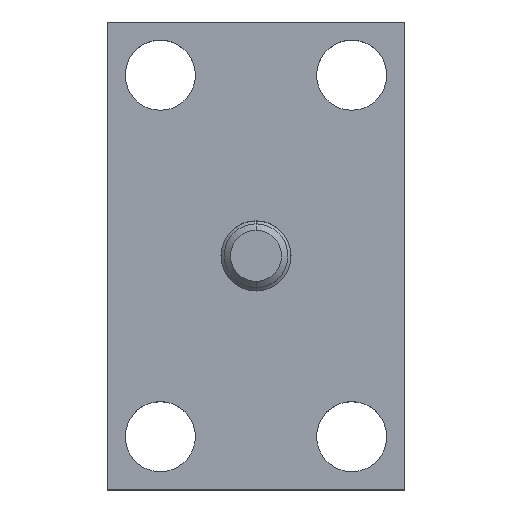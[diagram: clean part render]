
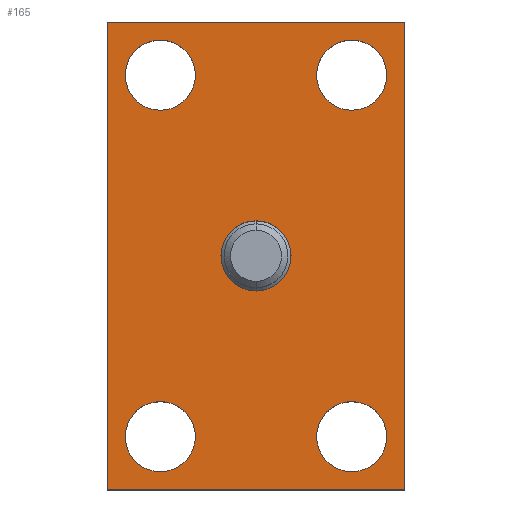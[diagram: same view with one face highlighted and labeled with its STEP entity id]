
A CAD part, top view. The second image highlights one B-rep face of the part: STEP entity #165.
In plain terms, the highlighted planar face has unit normal (0, 0, 1).
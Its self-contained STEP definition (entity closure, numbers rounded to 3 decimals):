
#117=CIRCLE('',#668,3.3);
#118=CIRCLE('',#669,3.3);
#119=CIRCLE('',#670,3.3);
#120=CIRCLE('',#671,3.3);
#121=CIRCLE('',#672,3.3);
#122=CIRCLE('',#673,3.3);
#123=CIRCLE('',#674,3.3);
#124=CIRCLE('',#675,3.3);
#125=CIRCLE('',#676,3.3);
#126=CIRCLE('',#677,3.3);
#147=FACE_BOUND('',#243,.T.);
#148=FACE_BOUND('',#244,.T.);
#149=FACE_BOUND('',#245,.T.);
#150=FACE_BOUND('',#246,.T.);
#151=FACE_BOUND('',#247,.T.);
#152=FACE_BOUND('',#248,.T.);
#165=ADVANCED_FACE('',(#147,#148,#149,#150,#151,#152),#198,.T.);
#198=PLANE('',#678);
#243=EDGE_LOOP('',(#299,#300,#301,#302));
#244=EDGE_LOOP('',(#303,#304));
#245=EDGE_LOOP('',(#305,#306));
#246=EDGE_LOOP('',(#307,#308));
#247=EDGE_LOOP('',(#309,#310));
#248=EDGE_LOOP('',(#311,#312));
#299=ORIENTED_EDGE('',*,*,#490,.T.);
#300=ORIENTED_EDGE('',*,*,#494,.T.);
#301=ORIENTED_EDGE('',*,*,#497,.T.);
#302=ORIENTED_EDGE('',*,*,#500,.T.);
#303=ORIENTED_EDGE('',*,*,#501,.T.);
#304=ORIENTED_EDGE('',*,*,#502,.T.);
#305=ORIENTED_EDGE('',*,*,#503,.T.);
#306=ORIENTED_EDGE('',*,*,#504,.T.);
#307=ORIENTED_EDGE('',*,*,#505,.T.);
#308=ORIENTED_EDGE('',*,*,#506,.T.);
#309=ORIENTED_EDGE('',*,*,#507,.T.);
#310=ORIENTED_EDGE('',*,*,#508,.T.);
#311=ORIENTED_EDGE('',*,*,#509,.T.);
#312=ORIENTED_EDGE('',*,*,#510,.T.);
#440=VERTEX_POINT('',#906);
#441=VERTEX_POINT('',#908);
#444=VERTEX_POINT('',#915);
#446=VERTEX_POINT('',#921);
#447=VERTEX_POINT('',#929);
#448=VERTEX_POINT('',#930);
#449=VERTEX_POINT('',#933);
#450=VERTEX_POINT('',#934);
#451=VERTEX_POINT('',#937);
#452=VERTEX_POINT('',#938);
#453=VERTEX_POINT('',#941);
#454=VERTEX_POINT('',#942);
#455=VERTEX_POINT('',#945);
#456=VERTEX_POINT('',#946);
#490=EDGE_CURVE('',#441,#440,#568,.T.);
#494=EDGE_CURVE('',#440,#444,#572,.T.);
#497=EDGE_CURVE('',#444,#446,#575,.T.);
#500=EDGE_CURVE('',#446,#441,#578,.T.);
#501=EDGE_CURVE('',#447,#448,#117,.T.);
#502=EDGE_CURVE('',#448,#447,#118,.T.);
#503=EDGE_CURVE('',#449,#450,#119,.T.);
#504=EDGE_CURVE('',#450,#449,#120,.T.);
#505=EDGE_CURVE('',#451,#452,#121,.T.);
#506=EDGE_CURVE('',#452,#451,#122,.T.);
#507=EDGE_CURVE('',#453,#454,#123,.T.);
#508=EDGE_CURVE('',#454,#453,#124,.T.);
#509=EDGE_CURVE('',#455,#456,#125,.T.);
#510=EDGE_CURVE('',#456,#455,#126,.T.);
#568=LINE('',#907,#616);
#572=LINE('',#916,#620);
#575=LINE('',#922,#623);
#578=LINE('',#926,#626);
#616=VECTOR('',#730,1.);
#620=VECTOR('',#736,1.);
#623=VECTOR('',#741,1.);
#626=VECTOR('',#746,1.);
#668=AXIS2_PLACEMENT_3D('',#928,#749,#750);
#669=AXIS2_PLACEMENT_3D('',#931,#751,#752);
#670=AXIS2_PLACEMENT_3D('',#932,#753,#754);
#671=AXIS2_PLACEMENT_3D('',#935,#755,#756);
#672=AXIS2_PLACEMENT_3D('',#936,#757,#758);
#673=AXIS2_PLACEMENT_3D('',#939,#759,#760);
#674=AXIS2_PLACEMENT_3D('',#940,#761,#762);
#675=AXIS2_PLACEMENT_3D('',#943,#763,#764);
#676=AXIS2_PLACEMENT_3D('',#944,#765,#766);
#677=AXIS2_PLACEMENT_3D('',#947,#767,#768);
#678=AXIS2_PLACEMENT_3D('',#948,#769,#770);
#730=DIRECTION('',(0.,-1.,0.));
#736=DIRECTION('',(1.,0.,0.));
#741=DIRECTION('',(0.,1.,0.));
#746=DIRECTION('',(-1.,0.,0.));
#749=DIRECTION('',(0.,0.,-1.));
#750=DIRECTION('',(-1.,0.,0.));
#751=DIRECTION('',(0.,0.,-1.));
#752=DIRECTION('',(1.,0.,0.));
#753=DIRECTION('',(0.,0.,-1.));
#754=DIRECTION('',(-1.,0.,0.));
#755=DIRECTION('',(0.,0.,-1.));
#756=DIRECTION('',(1.,0.,0.));
#757=DIRECTION('',(0.,0.,-1.));
#758=DIRECTION('',(-1.,0.,0.));
#759=DIRECTION('',(0.,0.,-1.));
#760=DIRECTION('',(1.,0.,0.));
#761=DIRECTION('',(0.,0.,-1.));
#762=DIRECTION('',(-1.,0.,0.));
#763=DIRECTION('',(0.,0.,-1.));
#764=DIRECTION('',(1.,0.,0.));
#765=DIRECTION('',(0.,0.,-1.));
#766=DIRECTION('',(-1.,0.,0.));
#767=DIRECTION('',(0.,0.,-1.));
#768=DIRECTION('',(1.,0.,0.));
#769=DIRECTION('',(0.,0.,1.));
#770=DIRECTION('',(-1.,0.,0.));
#906=CARTESIAN_POINT('',(-14.,-22.,9.));
#907=CARTESIAN_POINT('',(-14.,22.,9.));
#908=CARTESIAN_POINT('',(-14.,22.,9.));
#915=CARTESIAN_POINT('',(14.,-22.,9.));
#916=CARTESIAN_POINT('',(-14.,-22.,9.));
#921=CARTESIAN_POINT('',(14.,22.,9.));
#922=CARTESIAN_POINT('',(14.,22.,9.));
#926=CARTESIAN_POINT('',(-14.,22.,9.));
#928=CARTESIAN_POINT('',(9.,17.,9.));
#929=CARTESIAN_POINT('',(9.,20.3,9.));
#930=CARTESIAN_POINT('',(9.,13.7,9.));
#931=CARTESIAN_POINT('',(9.,17.,9.));
#932=CARTESIAN_POINT('',(-9.,17.,9.));
#933=CARTESIAN_POINT('',(-9.,20.3,9.));
#934=CARTESIAN_POINT('',(-9.,13.7,9.));
#935=CARTESIAN_POINT('',(-9.,17.,9.));
#936=CARTESIAN_POINT('',(-9.,-17.,9.));
#937=CARTESIAN_POINT('',(-9.,-13.7,9.));
#938=CARTESIAN_POINT('',(-9.,-20.3,9.));
#939=CARTESIAN_POINT('',(-9.,-17.,9.));
#940=CARTESIAN_POINT('',(9.,-17.,9.));
#941=CARTESIAN_POINT('',(9.,-13.7,9.));
#942=CARTESIAN_POINT('',(9.,-20.3,9.));
#943=CARTESIAN_POINT('',(9.,-17.,9.));
#944=CARTESIAN_POINT('',(0.,0.,9.));
#945=CARTESIAN_POINT('',(0.,3.3,9.));
#946=CARTESIAN_POINT('',(0.,-3.3,9.));
#947=CARTESIAN_POINT('',(0.,0.,9.));
#948=CARTESIAN_POINT('',(-14.,22.,9.));
